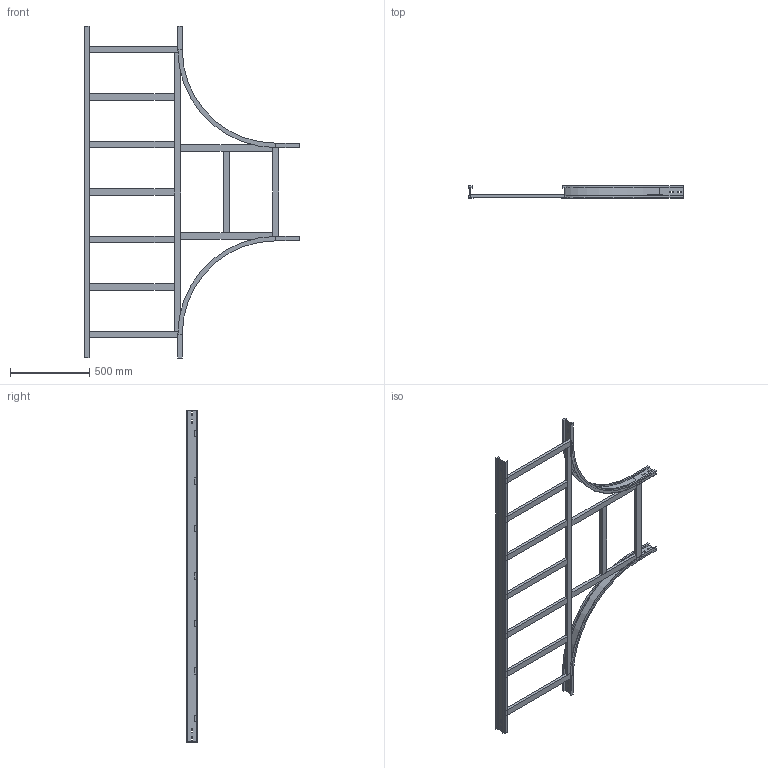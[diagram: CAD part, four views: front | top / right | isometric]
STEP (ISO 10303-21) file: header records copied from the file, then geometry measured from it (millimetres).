
FILE_DESCRIPTION (( 'STEP AP214' ), '1' );
FILE_NAME ('15S6C600.step', '2025-02-21T16:15:30', ( '' ), ( '' ), 'SwSTEP 2.0', 'SolidWorks 2023', '' );
FILE_SCHEMA (( 'AUTOMOTIVE_DESIGN' ));
Length unit declared in the file: millimetre
Products named in the file (8): TRAVERSINO_INTERMEDIO_R600+600; LONGH.INTERNO 90°_H75_R600; TRAVERSINO_LONG._R600+600; TRAVERSINO_COPPIA_600; TRAVERSINO_600; TRAVERSINO_VERT_R600; 15S6C600; LONGH.RETT_H75_R600+600
Assembly tree (15 placements, depth 2):
  15S6C600
    LONGH.INTERNO 90°_H75_R600  x2
    LONGH.RETT_H75_R600+600
    TRAVERSINO_600  x3
    TRAVERSINO_LONG._R600+600
    TRAVERSINO_INTERMEDIO_R600+600  x5
    TRAVERSINO_VERT_R600  x2
    TRAVERSINO_COPPIA_600
Bounding box: 1359 x 75 x 2100 mm (x, y, z)
Volume: 8745701.8 mm3; surface area: 2121435.9 mm2
Topology: 15 solids, 15 shells, 210 faces, 492 edges, 312 vertices
Faces by surface type: plane 198, cylinder 12
Entity records: 3589 total; most frequent: CARTESIAN_POINT 584, DIRECTION 552, ORIENTED_EDGE 552, EDGE_CURVE 276, LINE 264, VECTOR 264, VERTEX_POINT 176, AXIS2_PLACEMENT_3D 144
